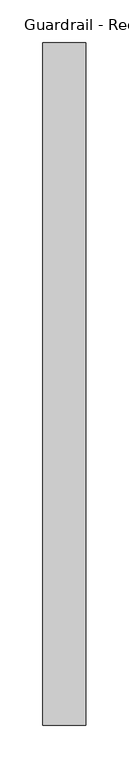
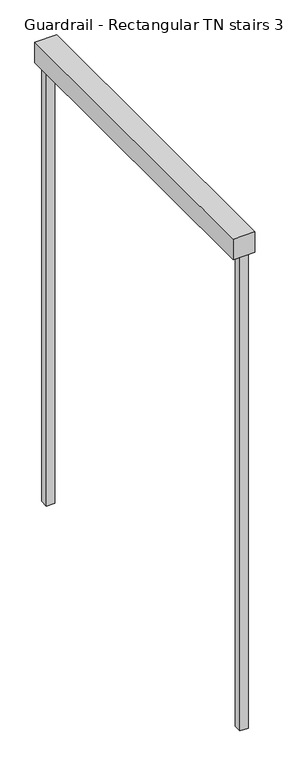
"""IFC4 building model written with IfcOpenShell, lengths in millimetres: railing geometry, Guardrail - Rectangular TN stairs 3."""

from ifc_helpers import new_model, si_unit, frame, origin, place, context, project, spatial, polyline, outline, extrude, source, transform, mapped, element, save


def guardrail_rectangular_tn_stairs_3_a4749100(model_context):
    return source(origin(), model_context, "Body", "SweptSolid", [
        extrude(outline(polyline([(-27359.9157069, -12936.8966791), (-27309.1157069, -12936.8966791), (-27309.1157069, -13736.8966791), (-27359.9157069, -13736.8966791), (-27359.9157069, -12936.8966791)])), frame((0.0, 0.0, 6116.0), z_axis=(0.0, 0.0, 1.0), x_axis=(1.0, 0.0, 0.0)), (0.0, 0.0, 1.0), 50.8),
        extrude(outline(polyline([(-27344.0407069, -13717.8716791), (-27324.9907069, -13717.8716791), (-27324.9907069, -13736.9216791), (-27344.0407069, -13736.9216791), (-27344.0407069, -13717.8716791)])), frame((0.0, 0.0, 4950.0), z_axis=(0.0, 0.0, 1.0), x_axis=(1.0, 0.0, 0.0)), (0.0, 0.0, 1.0), 1166.0),
        extrude(outline(polyline([(-27344.0407069, -12936.8716791), (-27324.9907069, -12936.8716791), (-27324.9907069, -12955.9216791), (-27344.0407069, -12955.9216791), (-27344.0407069, -12936.8716791)])), frame((0.0, 0.0, 5030.0), z_axis=(0.0, 0.0, 1.0), x_axis=(1.0, 0.0, 0.0)), (0.0, 0.0, 1.0), 1086.0),
    ])


if __name__ == "__main__":
    model = new_model("IFC4")
    model_context = context("Model", 3, world=origin())
    ifc_project = project(units=[si_unit("LENGTHUNIT", "METRE", prefix="MILLI")], contexts=[model_context])
    site = spatial("IfcSite", under=ifc_project)
    building = spatial("IfcBuilding", under=site)
    placement = place(None, origin())
    guardrail_rectangular_tn_stairs_3_shape = guardrail_rectangular_tn_stairs_3_a4749100(model_context)
    element("IfcRailing", 1, ObjectType="Guardrail - Rectangular TN stairs 3", at=placement, inside=building, context=model_context, shape_type="MappedRepresentation", body=[
        mapped(guardrail_rectangular_tn_stairs_3_shape, transform((0.0, 0.0, 0.0), x_axis=(1.0, 0.0, 0.0), y_axis=(0.0, 1.0, 0.0), z_axis=(0.0, 0.0, 1.0))),
    ])
    save(model, "model.ifc")
